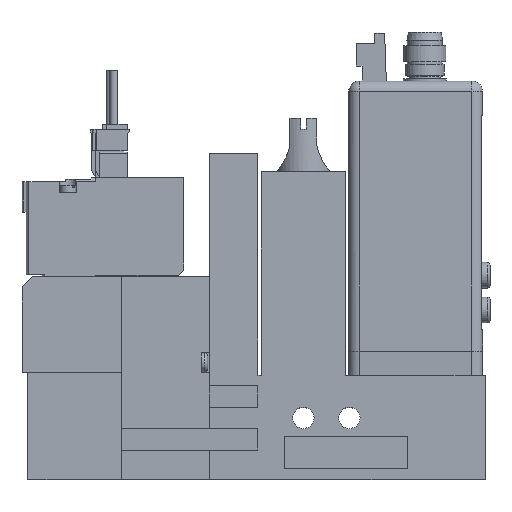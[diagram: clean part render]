
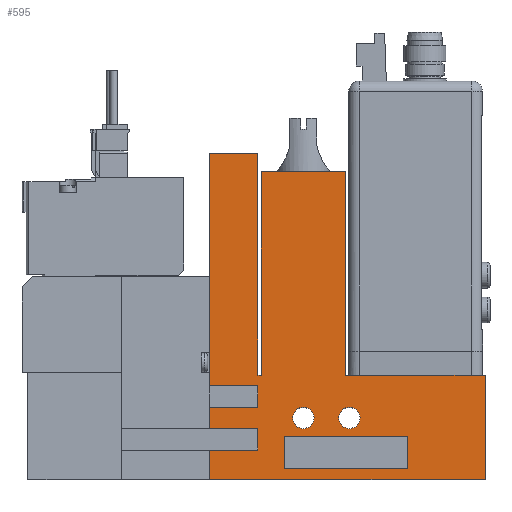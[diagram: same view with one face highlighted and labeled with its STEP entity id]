
A CAD part, top view. The second image highlights one B-rep face of the part: STEP entity #595.
In plain terms, the highlighted planar face has unit normal (0, 0, 1).
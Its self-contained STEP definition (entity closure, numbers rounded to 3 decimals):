
#595=ADVANCED_FACE('',(#1638,#1639,#1640,#1641),#1642,.T.);
#1638=FACE_OUTER_BOUND('',#3313,.T.);
#1639=FACE_BOUND('',#3314,.T.);
#1640=FACE_BOUND('',#3315,.T.);
#1641=FACE_BOUND('',#3316,.T.);
#1642=PLANE('',#3317);
#3313=EDGE_LOOP('',(#6668,#6669,#6670,#6671,#6672,#6673,#6674,#6675,#6676,#6677,#6678,#6679,#6680,#6681,#6682,#6683,#6684,#6685));
#3314=EDGE_LOOP('',(#6686,#6687,#6688,#6689));
#3315=EDGE_LOOP('',(#6690));
#3316=EDGE_LOOP('',(#6691));
#3317=AXIS2_PLACEMENT_3D('',#6692,#6693,#6694);
#6668=ORIENTED_EDGE('',*,*,#11157,.T.);
#6669=ORIENTED_EDGE('',*,*,#11222,.T.);
#6670=ORIENTED_EDGE('',*,*,#11227,.T.);
#6671=ORIENTED_EDGE('',*,*,#11228,.T.);
#6672=ORIENTED_EDGE('',*,*,#11172,.T.);
#6673=ORIENTED_EDGE('',*,*,#11229,.T.);
#6674=ORIENTED_EDGE('',*,*,#11230,.T.);
#6675=ORIENTED_EDGE('',*,*,#11231,.T.);
#6676=ORIENTED_EDGE('',*,*,#11232,.T.);
#6677=ORIENTED_EDGE('',*,*,#11233,.T.);
#6678=ORIENTED_EDGE('',*,*,#11234,.T.);
#6679=ORIENTED_EDGE('',*,*,#11235,.T.);
#6680=ORIENTED_EDGE('',*,*,#11212,.T.);
#6681=ORIENTED_EDGE('',*,*,#11209,.T.);
#6682=ORIENTED_EDGE('',*,*,#11216,.T.);
#6683=ORIENTED_EDGE('',*,*,#11236,.T.);
#6684=ORIENTED_EDGE('',*,*,#11137,.T.);
#6685=ORIENTED_EDGE('',*,*,#11218,.T.);
#6686=ORIENTED_EDGE('',*,*,#11237,.T.);
#6687=ORIENTED_EDGE('',*,*,#11238,.T.);
#6688=ORIENTED_EDGE('',*,*,#11239,.T.);
#6689=ORIENTED_EDGE('',*,*,#11240,.T.);
#6690=ORIENTED_EDGE('',*,*,#11241,.T.);
#6691=ORIENTED_EDGE('',*,*,#11242,.T.);
#6692=CARTESIAN_POINT('',(0.0,0.0,10.0));
#6693=DIRECTION('',(0.0,0.0,1.0));
#6694=DIRECTION('',(1.0,0.0,0.0));
#11137=EDGE_CURVE('',#13630,#13628,#13631,.T.);
#11157=EDGE_CURVE('',#13669,#13667,#13670,.T.);
#11172=EDGE_CURVE('',#13695,#13693,#13696,.T.);
#11209=EDGE_CURVE('',#13760,#13758,#13761,.T.);
#11212=EDGE_CURVE('',#13765,#13760,#13766,.T.);
#11216=EDGE_CURVE('',#13758,#13770,#13772,.T.);
#11218=EDGE_CURVE('',#13628,#13669,#13774,.T.);
#11222=EDGE_CURVE('',#13667,#13778,#13780,.T.);
#11227=EDGE_CURVE('',#13778,#13789,#13790,.T.);
#11228=EDGE_CURVE('',#13789,#13695,#13791,.T.);
#11229=EDGE_CURVE('',#13693,#13792,#13793,.T.);
#11230=EDGE_CURVE('',#13792,#13794,#13795,.T.);
#11231=EDGE_CURVE('',#13794,#13796,#13797,.T.);
#11232=EDGE_CURVE('',#13796,#13798,#13799,.T.);
#11233=EDGE_CURVE('',#13798,#13800,#13801,.T.);
#11234=EDGE_CURVE('',#13800,#13802,#13803,.T.);
#11235=EDGE_CURVE('',#13802,#13765,#13804,.T.);
#11236=EDGE_CURVE('',#13770,#13630,#13805,.T.);
#11237=EDGE_CURVE('',#13806,#13807,#13808,.T.);
#11238=EDGE_CURVE('',#13807,#13809,#13810,.T.);
#11239=EDGE_CURVE('',#13809,#13811,#13812,.T.);
#11240=EDGE_CURVE('',#13811,#13806,#13813,.T.);
#11241=EDGE_CURVE('',#13814,#13814,#13815,.T.);
#11242=EDGE_CURVE('',#13816,#13816,#13817,.T.);
#13628=VERTEX_POINT('',#17454);
#13630=VERTEX_POINT('',#17457);
#13631=LINE('',#17458,#17459);
#13667=VERTEX_POINT('',#17513);
#13669=VERTEX_POINT('',#17516);
#13670=LINE('',#17517,#17518);
#13693=VERTEX_POINT('',#17571);
#13695=VERTEX_POINT('',#17574);
#13696=LINE('',#17575,#17576);
#13758=VERTEX_POINT('',#17671);
#13760=VERTEX_POINT('',#17674);
#13761=LINE('',#17675,#17676);
#13765=VERTEX_POINT('',#17682);
#13766=LINE('',#17683,#17684);
#13770=VERTEX_POINT('',#17690);
#13772=LINE('',#17693,#17694);
#13774=LINE('',#17697,#17698);
#13778=VERTEX_POINT('',#17703);
#13780=LINE('',#17706,#17707);
#13789=VERTEX_POINT('',#17720);
#13790=LINE('',#17721,#17722);
#13791=LINE('',#17723,#17724);
#13792=VERTEX_POINT('',#17725);
#13793=LINE('',#17726,#17727);
#13794=VERTEX_POINT('',#17728);
#13795=LINE('',#17729,#17730);
#13796=VERTEX_POINT('',#17731);
#13797=LINE('',#17732,#17733);
#13798=VERTEX_POINT('',#17734);
#13799=LINE('',#17735,#17736);
#13800=VERTEX_POINT('',#17737);
#13801=LINE('',#17738,#17739);
#13802=VERTEX_POINT('',#17740);
#13803=LINE('',#17741,#17742);
#13804=LINE('',#17743,#17744);
#13805=LINE('',#17745,#17746);
#13806=VERTEX_POINT('',#17747);
#13807=VERTEX_POINT('',#17748);
#13808=LINE('',#17749,#17750);
#13809=VERTEX_POINT('',#17751);
#13810=LINE('',#17752,#17753);
#13811=VERTEX_POINT('',#17754);
#13812=LINE('',#17755,#17756);
#13813=LINE('',#17757,#17758);
#13814=VERTEX_POINT('',#17759);
#13815=CIRCLE('',#17760,2.0);
#13816=VERTEX_POINT('',#17761);
#13817=CIRCLE('',#17762,2.0);
#17454=CARTESIAN_POINT('',(44.1,61.0,10.0));
#17457=CARTESIAN_POINT('',(44.1,19.5,10.0));
#17458=CARTESIAN_POINT('',(44.1,19.5,10.0));
#17459=VECTOR('',#21469,1.0);
#17513=CARTESIAN_POINT('',(35.1,17.5,10.0));
#17516=CARTESIAN_POINT('',(35.1,61.0,10.0));
#17517=CARTESIAN_POINT('',(35.1,61.0,10.0));
#17518=VECTOR('',#21489,1.0);
#17571=CARTESIAN_POINT('',(35.1,9.5,10.0));
#17574=CARTESIAN_POINT('',(35.1,13.5,10.0));
#17575=CARTESIAN_POINT('',(35.1,0.0,10.0));
#17576=VECTOR('',#21513,1.0);
#17671=CARTESIAN_POINT('',(44.75,57.5,10.0));
#17674=CARTESIAN_POINT('',(60.45,57.5,10.0));
#17675=CARTESIAN_POINT('',(60.45,57.5,10.0));
#17676=VECTOR('',#21554,1.0);
#17682=CARTESIAN_POINT('',(60.45,19.5,10.0));
#17683=CARTESIAN_POINT('',(60.45,19.5,10.0));
#17684=VECTOR('',#21557,1.0);
#17690=CARTESIAN_POINT('',(44.75,19.5,10.0));
#17693=CARTESIAN_POINT('',(44.75,57.5,10.0));
#17694=VECTOR('',#21561,1.0);
#17697=CARTESIAN_POINT('',(44.1,61.0,10.0));
#17698=VECTOR('',#21563,1.0);
#17703=CARTESIAN_POINT('',(44.1,17.5,10.0));
#17706=CARTESIAN_POINT('',(0.0,17.5,10.0));
#17707=VECTOR('',#21569,1.0);
#17720=CARTESIAN_POINT('',(44.1,13.5,10.0));
#17721=CARTESIAN_POINT('',(44.1,0.0,10.0));
#17722=VECTOR('',#21574,1.0);
#17723=CARTESIAN_POINT('',(0.0,13.5,10.0));
#17724=VECTOR('',#21575,1.0);
#17725=CARTESIAN_POINT('',(44.1,9.5,10.0));
#17726=CARTESIAN_POINT('',(0.0,9.5,10.0));
#17727=VECTOR('',#21576,1.0);
#17728=CARTESIAN_POINT('',(44.1,5.5,10.0));
#17729=CARTESIAN_POINT('',(44.1,0.0,10.0));
#17730=VECTOR('',#21577,1.0);
#17731=CARTESIAN_POINT('',(35.1,5.5,10.0));
#17732=CARTESIAN_POINT('',(0.0,5.5,10.0));
#17733=VECTOR('',#21578,1.0);
#17734=CARTESIAN_POINT('',(35.1,0.0,10.0));
#17735=CARTESIAN_POINT('',(35.1,0.0,10.0));
#17736=VECTOR('',#21579,1.0);
#17737=CARTESIAN_POINT('',(86.6,0.0,10.0));
#17738=CARTESIAN_POINT('',(18.6,0.0,10.0));
#17739=VECTOR('',#21580,1.0);
#17740=CARTESIAN_POINT('',(86.6,19.5,10.0));
#17741=CARTESIAN_POINT('',(86.6,0.0,10.0));
#17742=VECTOR('',#21581,1.0);
#17743=CARTESIAN_POINT('',(86.6,19.5,10.0));
#17744=VECTOR('',#21582,1.0);
#17745=CARTESIAN_POINT('',(44.75,19.5,10.0));
#17746=VECTOR('',#21583,1.0);
#17747=CARTESIAN_POINT('',(49.1,2.0,10.0));
#17748=CARTESIAN_POINT('',(49.1,8.0,10.0));
#17749=CARTESIAN_POINT('',(49.1,0.0,10.0));
#17750=VECTOR('',#21584,1.0);
#17751=CARTESIAN_POINT('',(72.1,8.0,10.0));
#17752=CARTESIAN_POINT('',(0.0,8.0,10.0));
#17753=VECTOR('',#21585,1.0);
#17754=CARTESIAN_POINT('',(72.1,2.0,10.0));
#17755=CARTESIAN_POINT('',(72.1,0.0,10.0));
#17756=VECTOR('',#21586,1.0);
#17757=CARTESIAN_POINT('',(0.0,2.0,10.0));
#17758=VECTOR('',#21587,1.0);
#17759=CARTESIAN_POINT('',(54.6,11.5,10.0));
#17760=AXIS2_PLACEMENT_3D('',#21588,#21589,#21590);
#17761=CARTESIAN_POINT('',(63.2,11.5,10.0));
#17762=AXIS2_PLACEMENT_3D('',#21591,#21592,#21593);
#21469=DIRECTION('',(0.0,1.0,0.0));
#21489=DIRECTION('',(0.0,-1.0,0.0));
#21513=DIRECTION('',(0.0,-1.0,0.0));
#21554=DIRECTION('',(-1.0,0.0,0.0));
#21557=DIRECTION('',(0.0,1.0,0.0));
#21561=DIRECTION('',(0.0,-1.0,0.0));
#21563=DIRECTION('',(-1.0,0.0,0.0));
#21569=DIRECTION('',(1.0,0.0,0.0));
#21574=DIRECTION('',(0.0,-1.0,0.0));
#21575=DIRECTION('',(-1.0,0.0,0.0));
#21576=DIRECTION('',(1.0,0.0,0.0));
#21577=DIRECTION('',(0.0,-1.0,0.0));
#21578=DIRECTION('',(-1.0,0.0,0.0));
#21579=DIRECTION('',(0.0,-1.0,0.0));
#21580=DIRECTION('',(1.0,0.0,0.0));
#21581=DIRECTION('',(0.0,1.0,0.0));
#21582=DIRECTION('',(-1.0,0.0,0.0));
#21583=DIRECTION('',(-1.0,0.0,0.0));
#21584=DIRECTION('',(0.0,1.0,0.0));
#21585=DIRECTION('',(1.0,0.0,0.0));
#21586=DIRECTION('',(0.0,-1.0,0.0));
#21587=DIRECTION('',(-1.0,0.0,0.0));
#21588=CARTESIAN_POINT('',(52.6,11.5,10.0));
#21589=DIRECTION('',(0.0,0.0,-1.0));
#21590=DIRECTION('',(1.0,0.0,0.0));
#21591=CARTESIAN_POINT('',(61.2,11.5,10.0));
#21592=DIRECTION('',(0.0,0.0,-1.0));
#21593=DIRECTION('',(1.0,0.0,0.0));
